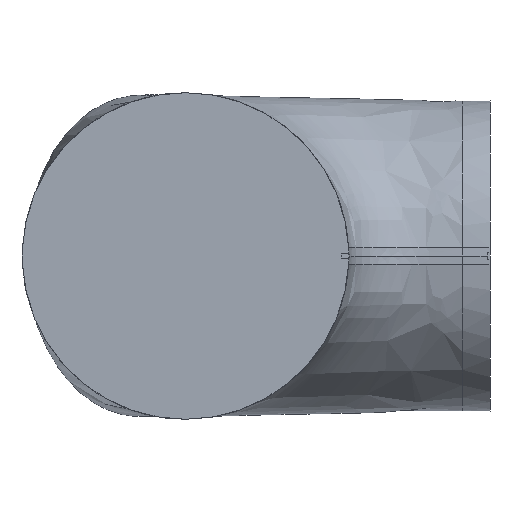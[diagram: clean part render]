
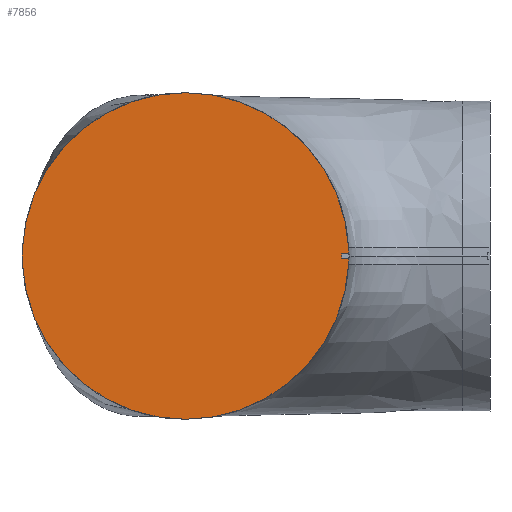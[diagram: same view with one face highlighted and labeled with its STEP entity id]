
A CAD part, front view. The second image highlights one B-rep face of the part: STEP entity #7856.
In plain terms, the highlighted planar face has unit normal (0, -1, 0).
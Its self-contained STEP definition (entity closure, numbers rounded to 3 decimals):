
#54 = ORIENTED_EDGE ( 'NONE', *, *, #5212, .T. ) ;
#338 = CARTESIAN_POINT ( 'NONE',  ( 90.919, -58.5, 1015. ) ) ;
#344 = EDGE_CURVE ( 'NONE', #7817, #7271, #2333, .T. ) ;
#470 = DIRECTION ( 'NONE',  ( 0., -1., 0. ) ) ;
#610 = CARTESIAN_POINT ( 'NONE',  ( 208.919, -58.5, 1011.912 ) ) ;
#771 = VECTOR ( 'NONE', #5188, 1000. ) ;
#897 = AXIS2_PLACEMENT_3D ( 'NONE', #8657, #6800, #5369 ) ;
#1151 = FACE_OUTER_BOUND ( 'NONE', #4522, .T. ) ;
#1296 = VERTEX_POINT ( 'NONE', #3792 ) ;
#1321 = CARTESIAN_POINT ( 'NONE',  ( 206.491, -58.5, 1016. ) ) ;
#1352 = DIRECTION ( 'NONE',  ( 0., 0., 1. ) ) ;
#1528 = DIRECTION ( 'NONE',  ( 0.052, 0., 0.999 ) ) ;
#1705 = LINE ( 'NONE', #5288, #7169 ) ;
#1714 = CARTESIAN_POINT ( 'NONE',  ( 208.919, -58.5, 1018.088 ) ) ;
#1806 = DIRECTION ( 'NONE',  ( 0., 0., 1. ) ) ;
#2154 = CARTESIAN_POINT ( 'NONE',  ( 91.081, -58.5, 1018.088 ) ) ;
#2174 = EDGE_CURVE ( 'NONE', #2784, #6264, #1705, .T. ) ;
#2201 = DIRECTION ( 'NONE',  ( 1., 0., 0. ) ) ;
#2333 = LINE ( 'NONE', #5731, #4487 ) ;
#2533 = DIRECTION ( 'NONE',  ( 0., 0., 1. ) ) ;
#2626 = DIRECTION ( 'NONE',  ( -0.052, 0., 0.999 ) ) ;
#2705 = CIRCLE ( 'NONE', #3866, 59. ) ;
#2721 = CARTESIAN_POINT ( 'NONE',  ( 150., -58.5, 1074. ) ) ;
#2784 = VERTEX_POINT ( 'NONE', #4143 ) ;
#2909 = VERTEX_POINT ( 'NONE', #2154 ) ;
#3041 = ORIENTED_EDGE ( 'NONE', *, *, #7581, .T. ) ;
#3052 = EDGE_CURVE ( 'NONE', #5698, #1296, #4278, .T. ) ;
#3145 = LINE ( 'NONE', #338, #771 ) ;
#3165 = EDGE_CURVE ( 'NONE', #2909, #7817, #3145, .T. ) ;
#3208 = CARTESIAN_POINT ( 'NONE',  ( 206.491, -58.5, 1014. ) ) ;
#3406 = AXIS2_PLACEMENT_3D ( 'NONE', #6667, #470, #6712 ) ;
#3410 = ORIENTED_EDGE ( 'NONE', *, *, #3778, .T. ) ;
#3433 = DIRECTION ( 'NONE',  ( 0., -1., 0. ) ) ;
#3778 = EDGE_CURVE ( 'NONE', #7271, #4830, #2705, .T. ) ;
#3792 = CARTESIAN_POINT ( 'NONE',  ( 209.029, -58.5, 1014. ) ) ;
#3803 = DIRECTION ( 'NONE',  ( 0., -1., 0. ) ) ;
#3866 = AXIS2_PLACEMENT_3D ( 'NONE', #8592, #3803, #1806 ) ;
#3911 = PLANE ( 'NONE',  #3406 ) ;
#4000 = VECTOR ( 'NONE', #2201, 1000. ) ;
#4143 = CARTESIAN_POINT ( 'NONE',  ( 209.029, -58.5, 1016. ) ) ;
#4196 = CARTESIAN_POINT ( 'NONE',  ( 150., -58.5, 956. ) ) ;
#4264 = EDGE_CURVE ( 'NONE', #5698, #6264, #8049, .T. ) ;
#4278 = LINE ( 'NONE', #7079, #4000 ) ;
#4308 = ORIENTED_EDGE ( 'NONE', *, *, #5700, .T. ) ;
#4318 = CARTESIAN_POINT ( 'NONE',  ( 91.081, -58.5, 1011.912 ) ) ;
#4377 = EDGE_CURVE ( 'NONE', #2784, #5581, #7542, .T. ) ;
#4401 = AXIS2_PLACEMENT_3D ( 'NONE', #5902, #7429, #5948 ) ;
#4421 = DIRECTION ( 'NONE',  ( -1., 0., 0. ) ) ;
#4448 = ORIENTED_EDGE ( 'NONE', *, *, #6755, .T. ) ;
#4487 = VECTOR ( 'NONE', #5099, 1000. ) ;
#4522 = EDGE_LOOP ( 'NONE', ( #7334, #7789, #3041, #4308, #5933, #6797, #3410, #4448, #54, #8523, #7360 ) ) ;
#4830 = VERTEX_POINT ( 'NONE', #4196 ) ;
#5099 = DIRECTION ( 'NONE',  ( 0.052, 0., -0.999 ) ) ;
#5188 = DIRECTION ( 'NONE',  ( -0.052, 0., -0.999 ) ) ;
#5212 = EDGE_CURVE ( 'NONE', #5978, #1296, #5743, .T. ) ;
#5288 = CARTESIAN_POINT ( 'NONE',  ( 206., -58.5, 1016. ) ) ;
#5369 = DIRECTION ( 'NONE',  ( 0., 0., 1. ) ) ;
#5581 = VERTEX_POINT ( 'NONE', #1714 ) ;
#5698 = VERTEX_POINT ( 'NONE', #3208 ) ;
#5700 = EDGE_CURVE ( 'NONE', #6562, #2909, #7896, .T. ) ;
#5731 = CARTESIAN_POINT ( 'NONE',  ( 90.919, -58.5, 1015. ) ) ;
#5743 = LINE ( 'NONE', #7723, #6078 ) ;
#5902 = CARTESIAN_POINT ( 'NONE',  ( 150., -58.5, 1015. ) ) ;
#5933 = ORIENTED_EDGE ( 'NONE', *, *, #3165, .T. ) ;
#5948 = DIRECTION ( 'NONE',  ( 0., 0., 1. ) ) ;
#5970 = CARTESIAN_POINT ( 'NONE',  ( 150., -58.5, 1015. ) ) ;
#5978 = VERTEX_POINT ( 'NONE', #610 ) ;
#6078 = VECTOR ( 'NONE', #1528, 1000. ) ;
#6102 = CARTESIAN_POINT ( 'NONE',  ( 150., -58.5, 1015. ) ) ;
#6187 = CARTESIAN_POINT ( 'NONE',  ( 209.081, -58.5, 1015. ) ) ;
#6264 = VERTEX_POINT ( 'NONE', #1321 ) ;
#6562 = VERTEX_POINT ( 'NONE', #2721 ) ;
#6667 = CARTESIAN_POINT ( 'NONE',  ( 150., -58.5, 1015. ) ) ;
#6712 = DIRECTION ( 'NONE',  ( 0., 0., 1. ) ) ;
#6755 = EDGE_CURVE ( 'NONE', #4830, #5978, #8697, .T. ) ;
#6797 = ORIENTED_EDGE ( 'NONE', *, *, #344, .T. ) ;
#6800 = DIRECTION ( 'NONE',  ( 0., -1., 0. ) ) ;
#7079 = CARTESIAN_POINT ( 'NONE',  ( 214., -58.5, 1014. ) ) ;
#7169 = VECTOR ( 'NONE', #4421, 1000. ) ;
#7271 = VERTEX_POINT ( 'NONE', #4318 ) ;
#7334 = ORIENTED_EDGE ( 'NONE', *, *, #2174, .F. ) ;
#7360 = ORIENTED_EDGE ( 'NONE', *, *, #4264, .T. ) ;
#7429 = DIRECTION ( 'NONE',  ( 0., -1., 0. ) ) ;
#7542 = LINE ( 'NONE', #6187, #8480 ) ;
#7581 = EDGE_CURVE ( 'NONE', #5581, #6562, #7829, .T. ) ;
#7723 = CARTESIAN_POINT ( 'NONE',  ( 209.081, -58.5, 1015. ) ) ;
#7789 = ORIENTED_EDGE ( 'NONE', *, *, #4377, .T. ) ;
#7817 = VERTEX_POINT ( 'NONE', #8702 ) ;
#7829 = CIRCLE ( 'NONE', #4401, 59. ) ;
#7856 = ADVANCED_FACE ( 'NONE', ( #1151 ), #3911, .T. ) ;
#7896 = CIRCLE ( 'NONE', #8620, 59. ) ;
#8049 = CIRCLE ( 'NONE', #8910, 56.5 ) ;
#8480 = VECTOR ( 'NONE', #2626, 1000. ) ;
#8523 = ORIENTED_EDGE ( 'NONE', *, *, #3052, .F. ) ;
#8592 = CARTESIAN_POINT ( 'NONE',  ( 150., -58.5, 1015. ) ) ;
#8620 = AXIS2_PLACEMENT_3D ( 'NONE', #5970, #8724, #2533 ) ;
#8657 = CARTESIAN_POINT ( 'NONE',  ( 150., -58.5, 1015. ) ) ;
#8697 = CIRCLE ( 'NONE', #897, 59. ) ;
#8702 = CARTESIAN_POINT ( 'NONE',  ( 90.919, -58.5, 1015. ) ) ;
#8724 = DIRECTION ( 'NONE',  ( 0., -1., 0. ) ) ;
#8910 = AXIS2_PLACEMENT_3D ( 'NONE', #6102, #3433, #1352 ) ;
